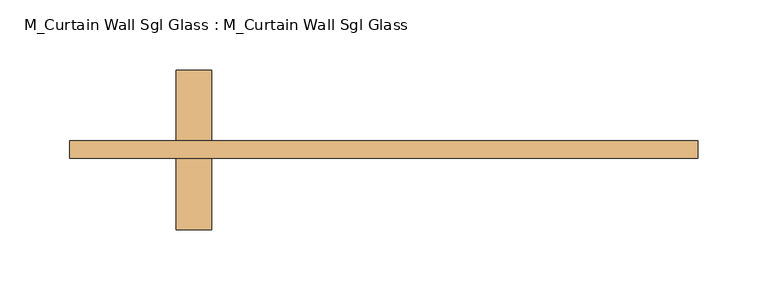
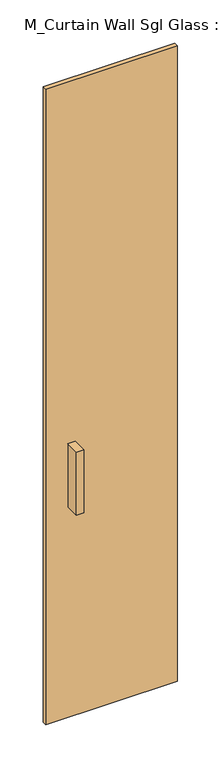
"""IFC4 building model written with IfcOpenShell, lengths in millimetres: door geometry, M_Curtain Wall Sgl Glass : M_Curtain Wall Sgl Glass."""

from ifc_helpers import new_model, si_unit, frame, origin, origin_with_axes, place, context, project, spatial, polyline, outline, extrude, source, transform, mapped, element, save


def m_curtain_wall_sgl_glass_m_curtain_wall_sgl_glass_723613c0(model_context):
    return source(origin(), model_context, "Body", "SweptSolid", [
        extrude(outline(polyline([(-123.4, 63.5), (-123.4, 12.7), (-148.8, 12.7), (-148.8, 63.5), (-123.4, 63.5)])), frame((0.0, 0.0, 762.0), z_axis=(0.0, 0.0, 1.0), x_axis=(1.0, 0.0, 0.0)), (0.0, 0.0, 1.0), 228.6),
        extrude(outline(polyline([(-148.8, -50.8), (-148.8, 0.0), (-123.4, 0.0), (-123.4, -50.8), (-148.8, -50.8)])), frame((0.0, 0.0, 762.0), z_axis=(0.0, 0.0, 1.0), x_axis=(1.0, 0.0, 0.0)), (0.0, 0.0, 1.0), 228.6),
        extrude(outline(polyline([(225.0, 0.0), (-225.0, 0.0), (-225.0, 12.7), (225.0, 12.7), (225.0, 0.0)])), origin_with_axes(), (0.0, 0.0, 1.0), 2300.0),
    ])


if __name__ == "__main__":
    model = new_model("IFC4")
    model_context = context("Model", 3, world=origin())
    ifc_project = project(units=[si_unit("LENGTHUNIT", "METRE", prefix="MILLI")], contexts=[model_context])
    site = spatial("IfcSite", under=ifc_project)
    building = spatial("IfcBuilding", under=site)
    placement = place(None, origin())
    m_curtain_wall_sgl_glass_m_curtain_wall_sgl_glass_shape = m_curtain_wall_sgl_glass_m_curtain_wall_sgl_glass_723613c0(model_context)
    element("IfcDoor", 1, ObjectType="M_Curtain Wall Sgl Glass : M_Curtain Wall Sgl Glass", at=placement, inside=building, context=model_context, shape_type="MappedRepresentation", body=[
        mapped(m_curtain_wall_sgl_glass_m_curtain_wall_sgl_glass_shape, transform((0.0, 0.0, 0.0), x_axis=(1.0, 0.0, 0.0), y_axis=(0.0, 1.0, 0.0), z_axis=(0.0, 0.0, 1.0))),
    ])
    save(model, "model.ifc")
